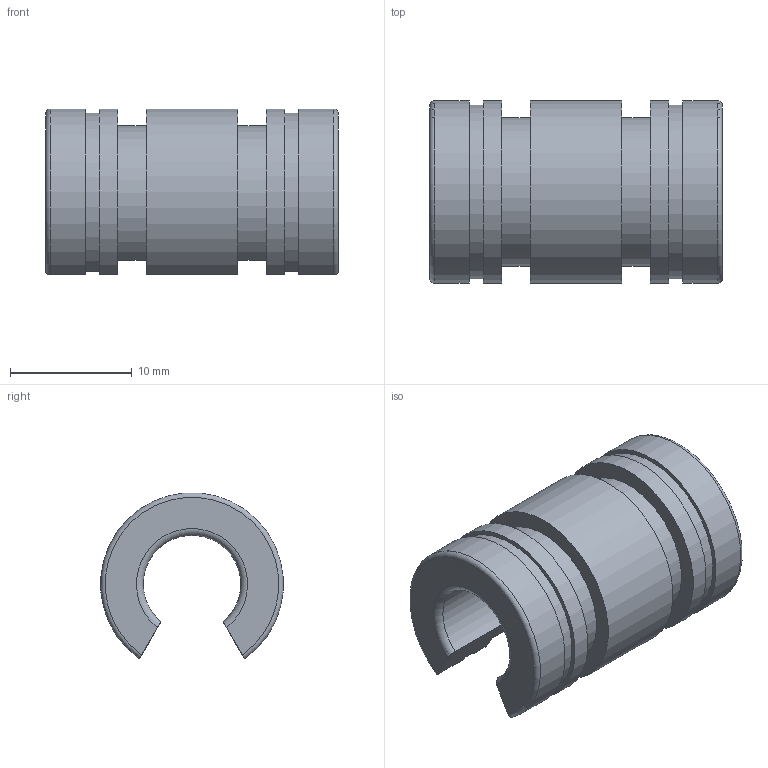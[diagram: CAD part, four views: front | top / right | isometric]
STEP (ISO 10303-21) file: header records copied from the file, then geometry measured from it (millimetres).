
FILE_DESCRIPTION(('STEP AP203'),'1');
FILE_NAME('//192.168.1.1/share/s-4 技術開発/s-4-4_CAD/s-4-4-3_見直し済み/PBC LINEAR修正済み/FJN/FJN_TOP/FJN08.step','2022-03-24T07:45:03',(' '),(' '),'Spatial InterOp 3D',' ',' ');
FILE_SCHEMA(('CONFIG_CONTROL_DESIGN'));
Length unit declared in the file: millimetre
Products named in the file (1): 1
Bounding box: 24 x 14.94 x 13.61 mm (x, y, z)
Volume: 2158.2 mm3; surface area: 1917.5 mm2
Topology: 1 solids, 1 shells, 26 faces, 72 edges, 48 vertices
Faces by surface type: plane 12, cylinder 10, torus 4
Entity records: 908 total; most frequent: CARTESIAN_POINT 187, ORIENTED_EDGE 144, DIRECTION 142, EDGE_CURVE 72, AXIS2_PLACEMENT_3D 51, VERTEX_POINT 48, LINE 40, VECTOR 40
